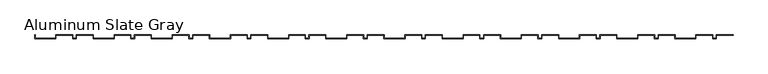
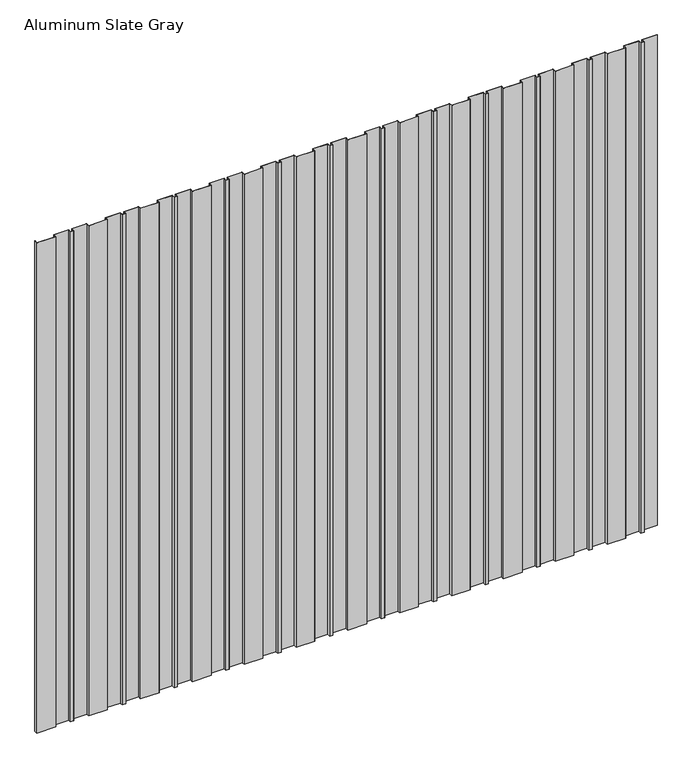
"""IFC4 building model written with IfcOpenShell, lengths in millimetres: proxy geometry, TitanTek VariPanel™ 2 Rib : Aluminum Slate Gray."""

from ifc_helpers import new_model, si_unit, origin, origin_with_axes, place, context, project, spatial, polyline, outline, extrude, source, transform, mapped, element, save


def aluminum_slate_gray_9a56e31e(model_context):
    return source(origin(), model_context, "Body", "SweptSolid", [
        extrude(outline(polyline([(4685.7046875, -0.9921875), (4685.7046875, -25.4), (4659.3125, -25.4), (4659.3125, -0.9921875), (4545.409375, -0.9921875), (4545.409375, -25.4), (4400.55, -25.4), (4400.55, 0.0), (4401.5421875, 0.0), (4401.5421875, -24.4078125), (4544.4171875, -24.4078125), (4544.4171875, 0.0), (4660.3046875, 0.0), (4660.3046875, -24.4078125), (4684.7125, -24.4078125), (4684.7125, 0.0), (4800.6, 0.0), (4800.6, -0.9921875), (4685.7046875, -0.9921875)])), origin_with_axes(), (0.0, 0.0, 1.0), 4000.0),
        extrude(outline(polyline([(4285.6546875, -0.9921875), (4285.6546875, -25.4), (4259.2625, -25.4), (4259.2625, -0.9921875), (4145.359375, -0.9921875), (4145.359375, -25.4), (4000.5, -25.4), (4000.5, 0.0), (4001.4921875, 0.0), (4001.4921875, -24.4078125), (4144.3671875, -24.4078125), (4144.3671875, 0.0), (4260.2546875, 0.0), (4260.2546875, -24.4078125), (4284.6625, -24.4078125), (4284.6625, 0.0), (4400.55, 0.0), (4400.55, -0.9921875), (4285.6546875, -0.9921875)])), origin_with_axes(), (0.0, 0.0, 1.0), 4000.0),
        extrude(outline(polyline([(3885.6046875, -0.9921875), (3885.6046875, -25.4), (3859.2125, -25.4), (3859.2125, -0.9921875), (3745.309375, -0.9921875), (3745.309375, -25.4), (3600.45, -25.4), (3600.45, 0.0), (3601.4421875, 0.0), (3601.4421875, -24.4078125), (3744.3171875, -24.4078125), (3744.3171875, 0.0), (3860.2046875, 0.0), (3860.2046875, -24.4078125), (3884.6125, -24.4078125), (3884.6125, 0.0), (4000.5, 0.0), (4000.5, -0.9921875), (3885.6046875, -0.9921875)])), origin_with_axes(), (0.0, 0.0, 1.0), 4000.0),
        extrude(outline(polyline([(3485.5546875, -0.9921875), (3485.5546875, -25.4), (3459.1625, -25.4), (3459.1625, -0.9921875), (3345.259375, -0.9921875), (3345.259375, -25.4), (3200.4, -25.4), (3200.4, 0.0), (3201.3921875, 0.0), (3201.3921875, -24.4078125), (3344.2671875, -24.4078125), (3344.2671875, 0.0), (3460.1546875, 0.0), (3460.1546875, -24.4078125), (3484.5625, -24.4078125), (3484.5625, 0.0), (3600.45, 0.0), (3600.45, -0.9921875), (3485.5546875, -0.9921875)])), origin_with_axes(), (0.0, 0.0, 1.0), 4000.0),
        extrude(outline(polyline([(3085.5046875, -0.9921875), (3085.5046875, -25.4), (3059.1125, -25.4), (3059.1125, -0.9921875), (2945.209375, -0.9921875), (2945.209375, -25.4), (2800.35, -25.4), (2800.35, 0.0), (2801.3421875, 0.0), (2801.3421875, -24.4078125), (2944.2171875, -24.4078125), (2944.2171875, 0.0), (3060.1046875, 0.0), (3060.1046875, -24.4078125), (3084.5125, -24.4078125), (3084.5125, 0.0), (3200.4, 0.0), (3200.4, -0.9921875), (3085.5046875, -0.9921875)])), origin_with_axes(), (0.0, 0.0, 1.0), 4000.0),
        extrude(outline(polyline([(2685.4546875, -0.9921875), (2685.4546875, -25.4), (2659.0625, -25.4), (2659.0625, -0.9921875), (2545.159375, -0.9921875), (2545.159375, -25.4), (2400.3, -25.4), (2400.3, 0.0), (2401.2921875, 0.0), (2401.2921875, -24.4078125), (2544.1671875, -24.4078125), (2544.1671875, 0.0), (2660.0546875, 0.0), (2660.0546875, -24.4078125), (2684.4625, -24.4078125), (2684.4625, 0.0), (2800.35, 0.0), (2800.35, -0.9921875), (2685.4546875, -0.9921875)])), origin_with_axes(), (0.0, 0.0, 1.0), 4000.0),
        extrude(outline(polyline([(2285.4046875, -0.9921875), (2285.4046875, -25.4), (2259.0125, -25.4), (2259.0125, -0.9921875), (2145.109375, -0.9921875), (2145.109375, -25.4), (2000.25, -25.4), (2000.25, 0.0), (2001.2421875, 0.0), (2001.2421875, -24.4078125), (2144.1171875, -24.4078125), (2144.1171875, 0.0), (2260.0046875, 0.0), (2260.0046875, -24.4078125), (2284.4125, -24.4078125), (2284.4125, 0.0), (2400.3, 0.0), (2400.3, -0.9921875), (2285.4046875, -0.9921875)])), origin_with_axes(), (0.0, 0.0, 1.0), 4000.0),
        extrude(outline(polyline([(1885.3546875, -0.9921875), (1885.3546875, -25.4), (1858.9625, -25.4), (1858.9625, -0.9921875), (1745.059375, -0.9921875), (1745.059375, -25.4), (1600.2, -25.4), (1600.2, 0.0), (1601.1921875, 0.0), (1601.1921875, -24.4078125), (1744.0671875, -24.4078125), (1744.0671875, 0.0), (1859.9546875, 0.0), (1859.9546875, -24.4078125), (1884.3625, -24.4078125), (1884.3625, 0.0), (2000.25, 0.0), (2000.25, -0.9921875), (1885.3546875, -0.9921875)])), origin_with_axes(), (0.0, 0.0, 1.0), 4000.0),
        extrude(outline(polyline([(1485.3046875, -0.9921875), (1485.3046875, -25.4), (1458.9125, -25.4), (1458.9125, -0.9921875), (1345.009375, -0.9921875), (1345.009375, -25.4), (1200.15, -25.4), (1200.15, 0.0), (1201.1421875, 0.0), (1201.1421875, -24.4078125), (1344.0171875, -24.4078125), (1344.0171875, 0.0), (1459.9046875, 0.0), (1459.9046875, -24.4078125), (1484.3125, -24.4078125), (1484.3125, 0.0), (1600.2, 0.0), (1600.2, -0.9921875), (1485.3046875, -0.9921875)])), origin_with_axes(), (0.0, 0.0, 1.0), 4000.0),
        extrude(outline(polyline([(1085.2546875, -0.9921875), (1085.2546875, -25.4), (1058.8625, -25.4), (1058.8625, -0.9921875), (944.959375, -0.9921875), (944.959375, -25.4), (800.1, -25.4), (800.1, 0.0), (801.0921875, 0.0), (801.0921875, -24.4078125), (943.9671875, -24.4078125), (943.9671875, 0.0), (1059.8546875, 0.0), (1059.8546875, -24.4078125), (1084.2625, -24.4078125), (1084.2625, 0.0), (1200.15, 0.0), (1200.15, -0.9921875), (1085.2546875, -0.9921875)])), origin_with_axes(), (0.0, 0.0, 1.0), 4000.0),
        extrude(outline(polyline([(685.2046875, -0.9921875), (685.2046875, -25.4), (658.8125, -25.4), (658.8125, -0.9921875), (544.909375, -0.9921875), (544.909375, -25.4), (400.05, -25.4), (400.05, 0.0), (401.0421875, 0.0), (401.0421875, -24.4078125), (543.9171875, -24.4078125), (543.9171875, 0.0), (659.8046875, 0.0), (659.8046875, -24.4078125), (684.2125, -24.4078125), (684.2125, 0.0), (800.1, 0.0), (800.1, -0.9921875), (685.2046875, -0.9921875)])), origin_with_axes(), (0.0, 0.0, 1.0), 4000.0),
        extrude(outline(polyline([(285.1546875, -0.9921875), (285.1546875, -25.4), (258.7625, -25.4), (258.7625, -0.9921875), (144.859375, -0.9921875), (144.859375, -25.4), (0.0, -25.4), (0.0, 0.0), (0.9921875, 0.0), (0.9921875, -24.4078125), (143.8671875, -24.4078125), (143.8671875, 0.0), (259.7546875, 0.0), (259.7546875, -24.4078125), (284.1625, -24.4078125), (284.1625, 0.0), (400.05, 0.0), (400.05, -0.9921875), (285.1546875, -0.9921875)])), origin_with_axes(), (0.0, 0.0, 1.0), 4000.0),
    ])


if __name__ == "__main__":
    model = new_model("IFC4")
    model_context = context("Model", 3, world=origin())
    ifc_project = project(units=[si_unit("LENGTHUNIT", "METRE", prefix="MILLI")], contexts=[model_context])
    site = spatial("IfcSite", under=ifc_project)
    building = spatial("IfcBuilding", under=site)
    placement = place(None, origin())
    aluminum_slate_gray_shape = aluminum_slate_gray_9a56e31e(model_context)
    element("IfcBuildingElementProxy", 1, Name="TitanTek VariPanel™ 2 Rib : Aluminum Slate Gray", ObjectType="TitanTek VariPanel™ 2 Rib : Aluminum Slate Gray", at=placement, inside=building, context=model_context, shape_type="MappedRepresentation", body=[
        mapped(aluminum_slate_gray_shape, transform((0.0, 0.0, 0.0), x_axis=(1.0, 0.0, 0.0), y_axis=(0.0, 1.0, 0.0), z_axis=(0.0, 0.0, 1.0))),
    ])
    save(model, "model.ifc")
